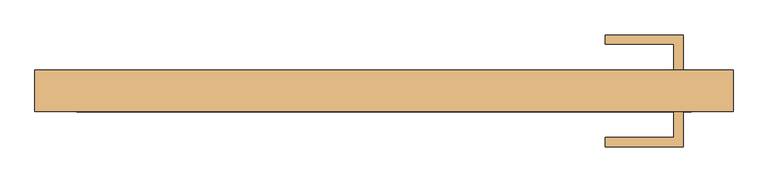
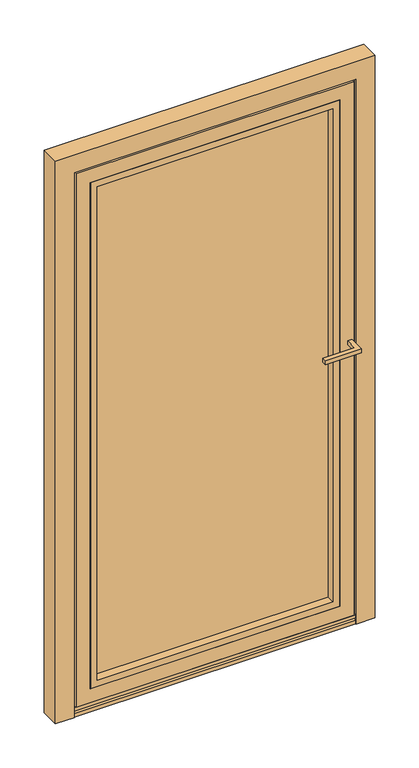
"""IFC4 building model written with IfcOpenShell, lengths in millimetres: door geometry, Reynaers_CS 77_Door_Panel_Outward Opening_Single Vent_One Sided : Reynaers_CS 77_Door_Panel_Outward Opening_Single Vent_One Sided."""

from ifc_helpers import new_model, si_unit, point, frame, frame_2d, origin, place, context, project, spatial, polyline, circle_curve, trimmed, segment, composite_curve, outline, extrude, faceted_brep, source, transform, mapped, element, save


def door_b9a668b0(model_context):
    return source(origin(), model_context, "Body", "SolidModel", [
        extrude(outline(polyline([(488.5, 42.5), (473.5, 42.5), (473.5, 85.0), (361.0, 85.0), (361.0, 100.0), (488.5, 100.0), (488.5, 42.5)])), frame((0.0, 0.0, 1062.5), z_axis=(0.0, 0.0, 1.0), x_axis=(1.0, 0.0, 0.0)), (0.0, 0.0, 1.0), 15.0),
        extrude(outline(polyline([(488.5, -25.5), (488.5, -83.0), (361.0, -83.0), (361.0, -68.0), (473.5, -68.0), (473.5, -25.5), (488.5, -25.5)])), frame((0.0, 0.0, 1062.5), z_axis=(0.0, 0.0, 1.0), x_axis=(1.0, 0.0, 0.0)), (0.0, 0.0, 1.0), 15.0),
        extrude(outline(polyline([(522.0, 39.5), (-522.0, 39.5), (-522.0, 42.5), (522.0, 42.5), (522.0, 39.5)])), frame((0.0, 0.0, 10.5), z_axis=(0.0, 0.0, 1.0), x_axis=(1.0, 0.0, 0.0)), (0.0, 0.0, 1.0), 2061.5),
        extrude(outline(polyline([(439.0, 4.5), (-439.0, 4.5), (-439.0, 39.5), (439.0, 39.5), (439.0, 4.5)])), frame((0.0, 0.0, 93.5), z_axis=(0.0, 0.0, 1.0), x_axis=(1.0, 0.0, 0.0)), (0.0, 0.0, 1.0), 1895.5),
        faceted_brep([(445.0, -25.5, 1995.0), (445.0, 39.1, 1995.0), (445.0, 39.1, 87.5), (445.0, -25.5, 87.5), (495.9994981, 39.1, 2045.9994981), (495.9994981, 39.1, 36.5005019), (-495.9994981, 39.1, 36.5005019), (-495.9994981, 39.1, 2045.9994981), (-445.0, 39.1, 1995.0), (-445.0, 39.1, 87.5), (-445.0, -25.5, 87.5), (-496.0, -25.5, 2046.0), (-496.0, -25.5, 36.5), (496.0, -25.5, 36.5), (496.0, -25.5, 2046.0), (-445.0, -25.5, 1995.0), (496.0, -16.7, 2046.0), (496.0, -16.7, 36.5), (-496.0, -16.7, 36.5), (-507.0, -16.7, 2057.0), (-507.0, -16.7, 25.5), (507.0, -16.7, 25.5), (507.0, -16.7, 2057.0), (-496.0, -16.7, 2046.0), (-507.0, 33.7, 25.5), (-507.0, 33.7, 2057.0), (507.0, 33.7, 25.5), (507.0, 33.7, 2057.0), (-495.9994981, 33.7, 2045.9994981), (-495.9994981, 33.7, 36.5005019), (495.9994981, 33.7, 36.5005019), (495.9994981, 33.7, 2045.9994981)], [[[0, 1, 2, 3]], [[4, 5, 6, 7], [8, 9, 2, 1]], [[3, 2, 9, 10]], [[11, 12, 13, 14], [0, 3, 10, 15]], [[16, 14, 13, 17]], [[17, 13, 12, 18]], [[19, 20, 21, 22], [16, 17, 18, 23]], [[10, 9, 8, 15]], [[18, 12, 11, 23]], [[24, 20, 19, 25]], [[26, 21, 20, 24]], [[27, 22, 21, 26]], [[27, 26, 24, 25], [28, 29, 30, 31]], [[4, 31, 30, 5]], [[5, 30, 29, 6]], [[6, 29, 28, 7]], [[15, 8, 1, 0]], [[23, 11, 14, 16]], [[25, 19, 22, 27]], [[7, 28, 31, 4]]]),
        faceted_brep([(420.0, -25.5, 1970.0), (420.0, 4.7003, 1970.0), (420.0, 4.7003, 112.5), (420.0, -25.5, 112.5), (444.0, 4.7003, 1994.0), (444.0, 4.7003, 88.5), (-444.0, 4.7003, 88.5), (-444.0, 4.7003, 1994.0), (-420.0, 4.7003, 1970.0), (-420.0, 4.7003, 112.5), (-420.0, -25.5, 112.5), (-444.0, -25.5, 1994.0), (-444.0, -25.5, 88.5), (444.0, -25.5, 88.5), (444.0, -25.5, 1994.0), (-420.0, -25.5, 1970.0)], [[[0, 1, 2, 3]], [[4, 5, 6, 7], [8, 9, 2, 1]], [[3, 2, 9, 10]], [[11, 12, 13, 14], [0, 3, 10, 15]], [[4, 14, 13, 5]], [[5, 13, 12, 6]], [[10, 9, 8, 15]], [[6, 12, 11, 7]], [[15, 8, 1, 0]], [[7, 11, 14, 4]]]),
        faceted_brep([(-528.0, 33.7, 0.0), (-517.0, 33.7, 0.0), (-517.0, -21.7, 0.0), (-502.0, -21.7, 0.0), (-502.0, -25.5, 0.0), (-570.0, -25.5, 0.0), (-570.0, 42.5, 0.0), (-528.0, 42.5, 0.0), (-528.0, 33.7, 2078.0), (528.0, 33.7, 2078.0), (528.0, 33.7, 0.0), (517.0, 33.7, 0.0), (517.0, 33.7, 2067.0), (-517.0, 33.7, 2067.0), (-517.0, -21.7, 2067.0), (517.0, -21.7, 2067.0), (517.0, -21.7, 0.0), (502.0, -21.7, 0.0), (502.0, -21.7, 2052.0), (-502.0, -21.7, 2052.0), (-502.0, -25.5, 2052.0), (502.0, -25.5, 2052.0), (502.0, -25.5, 0.0), (570.0, -25.5, 0.0), (570.0, -25.5, 2120.0), (-570.0, -25.5, 2120.0), (-570.0, 42.5, 2120.0), (570.0, 42.5, 2120.0), (570.0, 42.5, 0.0), (528.0, 42.5, 0.0), (528.0, 42.5, 2078.0), (-528.0, 42.5, 2078.0)], [[[0, 1, 2, 3, 4, 5, 6, 7]], [[1, 0, 8, 9, 10, 11, 12, 13]], [[2, 1, 13, 14]], [[3, 2, 14, 15, 16, 17, 18, 19]], [[4, 3, 19, 20]], [[5, 4, 20, 21, 22, 23, 24, 25]], [[6, 5, 25, 26]], [[7, 6, 26, 27, 28, 29, 30, 31]], [[0, 7, 31, 8]], [[9, 30, 29, 10]], [[10, 29, 28, 23, 22, 17, 16, 11]], [[15, 12, 11, 16]], [[27, 24, 23, 28]], [[21, 18, 17, 22]], [[26, 25, 24, 27]], [[8, 31, 30, 9]], [[14, 13, 12, 15]], [[20, 19, 18, 21]]]),
        extrude(outline(polyline([(42.5, 2.2995117), (42.5, 1.0), (-25.5, 1.0), (-25.5, 13.9580175), (-17.7418049, 19.3903642), (-11.5401434, 11.9995117), (33.5, 11.9995117), (33.5, 3.0869097), (42.5, 2.2995117)])), frame((-502.0, 0.0, 0.0), z_axis=(1.0, 0.0, 0.0), x_axis=(0.0, 1.0, 0.0)), (0.0, 0.0, 1.0), 1004.0),
        extrude(outline(composite_curve([segment(polyline([(-25.7, 23.7000068), (-25.7, 36.5), (-16.7, 36.5), (-16.7, 24.7), (-6.2061315, 24.7), (-6.2061315, 23.5137156)]), True, "CONTINUOUS"), segment(trimmed(circle_curve(frame_2d((-1.4247942, 13.643718)), 10.9671344), [point((-6.2061315, 23.5137156))], [point((-9.7328851, 20.8028844))], True, "CARTESIAN"), True, "CONTINUOUS"), segment(trimmed(circle_curve(frame_2d((-17.0631573, 25.7044335)), 8.8180539), [point((-9.7328851, 20.8028844))], [point((-14.5253586, 17.2594557))], False, "CARTESIAN"), True, "CONTINUOUS"), segment(trimmed(circle_curve(frame_2d((-15.3944621, 20.533331)), 3.3872704), [point((-14.5253586, 17.2594557))], [point((-16.5968617, 23.7000068))], False, "CARTESIAN"), True, "CONTINUOUS"), segment(polyline([(-16.5968617, 23.7000068), (-25.7, 23.7000068)]), True, "CONTINUOUS")], self_intersect=False)), frame((-502.0, 0.0, 0.0), z_axis=(1.0, 0.0, 0.0), x_axis=(0.0, 1.0, 0.0)), (0.0, 0.0, 1.0), 1004.0),
    ])


if __name__ == "__main__":
    model = new_model("IFC4")
    model_context = context("Model", 3, world=origin())
    ifc_project = project(units=[si_unit("LENGTHUNIT", "METRE", prefix="MILLI")], contexts=[model_context])
    site = spatial("IfcSite", under=ifc_project)
    building = spatial("IfcBuilding", under=site)
    placement = place(None, origin())
    door_shape = door_b9a668b0(model_context)
    element("IfcDoor", 1, ObjectType="Reynaers_CS 77_Door_Panel_Outward Opening_Single Vent_One Sided : Reynaers_CS 77_Door_Panel_Outward Opening_Single Vent_One Sided", at=placement, inside=building, context=model_context, shape_type="MappedRepresentation", body=[
        mapped(door_shape, transform((0.0, 0.0, 0.0), x_axis=(1.0, 0.0, 0.0), y_axis=(0.0, 1.0, 0.0), z_axis=(0.0, 0.0, 1.0))),
    ])
    save(model, "model.ifc")
